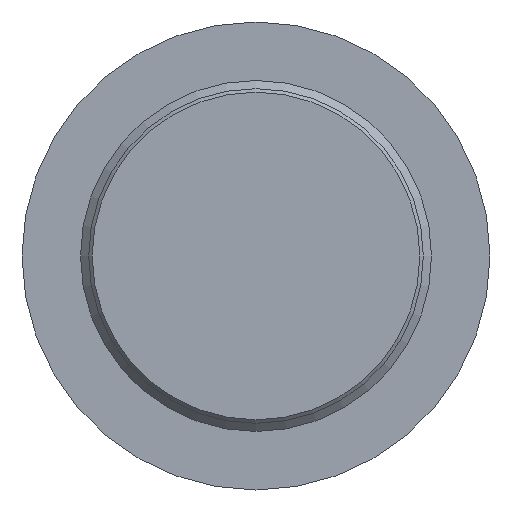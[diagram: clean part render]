
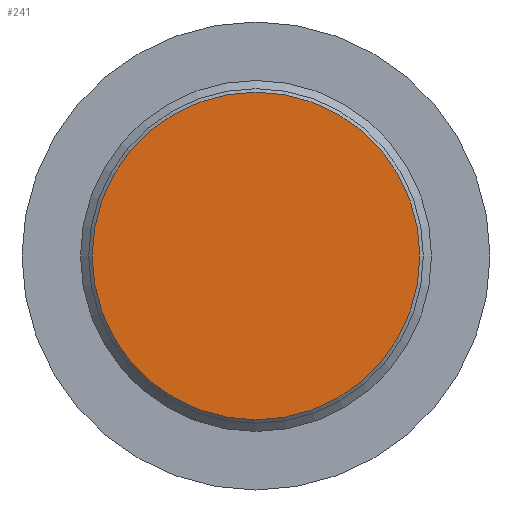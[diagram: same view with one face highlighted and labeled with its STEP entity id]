
A CAD part, front view. The second image highlights one B-rep face of the part: STEP entity #241.
In plain terms, the highlighted planar face has unit normal (0, -1, 0).
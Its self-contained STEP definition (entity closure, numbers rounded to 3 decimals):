
#26=PLANE('',#279);
#34=FACE_OUTER_BOUND('',#49,.T.);
#49=EDGE_LOOP('',(#175));
#86=CIRCLE('',#278,7.);
#112=VERTEX_POINT('',#414);
#139=EDGE_CURVE('',#112,#112,#86,.T.);
#175=ORIENTED_EDGE('',*,*,#139,.F.);
#241=ADVANCED_FACE('',(#34),#26,.T.);
#278=AXIS2_PLACEMENT_3D('',#416,#325,#326);
#279=AXIS2_PLACEMENT_3D('',#417,#327,#328);
#325=DIRECTION('center_axis',(0.,1.,0.));
#326=DIRECTION('ref_axis',(0.,0.,-1.));
#327=DIRECTION('center_axis',(0.,-1.,0.));
#328=DIRECTION('ref_axis',(0.,0.,-1.));
#414=CARTESIAN_POINT('',(0.,-1100.,7.));
#416=CARTESIAN_POINT('Origin',(0.,-1100.,0.));
#417=CARTESIAN_POINT('Origin',(0.,-1100.,7.5));
